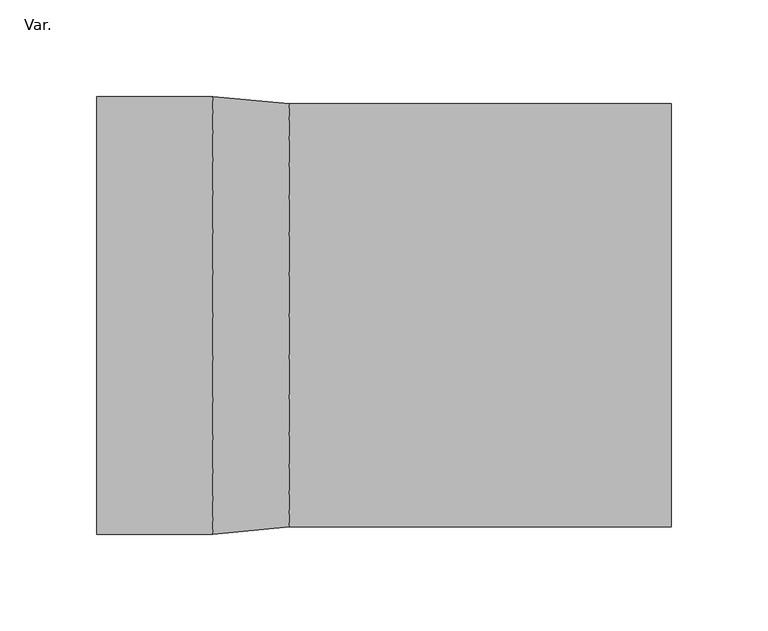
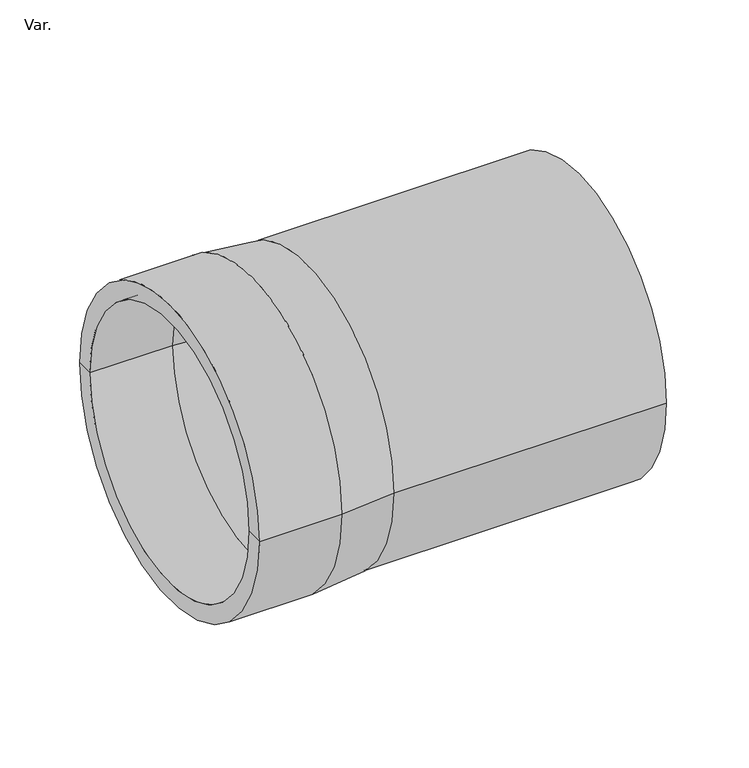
"""IFC4 building model written with IfcOpenShell, lengths in millimetres: pipe fitting geometry, PAVCO_PVC QS Adaptador Transición QS X PVC-U : Var.."""

from ifc_helpers import new_model, si_unit, frame, origin, place, context, project, spatial, polyline, circle_curve, source, transform, mapped, element, save
from ifc_brep_helpers import plane_surface, cylinder_surface, revolved_surface, advanced_brep


def var_8e9831f6(model_context):
    return source(origin(), model_context, "Body", "AdvancedBrep", [
        advanced_brep(
        [(-19.775, -113.25, 0.0), (-19.775, 113.25, 0.0), (19.775, 109.54, 0.0), (19.775, -109.54, 0.0), (-79.775, -113.25, 0.0), (-79.775, 113.25, 0.0), (-79.775, -100.325, 0.0), (-79.775, 100.325, 0.0), (-19.775, -100.325, 0.0), (-19.775, 100.325, 0.0), (19.775, -96.615, 0.0), (19.775, 96.615, 0.0), (217.475, -96.615, 0.0), (217.475, 96.615, 0.0), (217.475, -109.54, 0.0), (217.475, 109.54, 0.0)],
        [
            (0, 1, circle_curve(frame((-19.775, 0.0, 0.0), z_axis=(1.0, 0.0, 0.0), x_axis=(0.0, 1.0, 0.0)), 113.25)),
            (1, 2),
            (2, 3, circle_curve(frame((19.775, 0.0, 0.0), z_axis=(-1.0, 0.0, 0.0), x_axis=(0.0, 1.0, 0.0)), 109.54)),
            (3, 0),
            (1, 0, circle_curve(frame((-19.775, 0.0, 0.0), z_axis=(1.0, 0.0, 0.0), x_axis=(0.0, 1.0, 0.0)), 113.25)),
            (3, 2, circle_curve(frame((19.775, 0.0, 0.0), z_axis=(-1.0, 0.0, 0.0), x_axis=(0.0, 1.0, 0.0)), 109.54)),
            (4, 5, circle_curve(frame((-79.775, 0.0, 0.0), z_axis=(1.0, 0.0, 0.0), x_axis=(0.0, 1.0, 0.0)), 113.25)),
            (5, 1),
            (0, 4),
            (5, 4, circle_curve(frame((-79.775, 0.0, 0.0), z_axis=(1.0, 0.0, 0.0), x_axis=(0.0, 1.0, 0.0)), 113.25)),
            (6, 7, circle_curve(frame((-79.775, 0.0, 0.0), z_axis=(1.0, 0.0, 0.0), x_axis=(0.0, 1.0, 0.0)), 100.325)),
            (7, 5),
            (4, 6),
            (7, 6, circle_curve(frame((-79.775, 0.0, 0.0), z_axis=(1.0, 0.0, 0.0), x_axis=(0.0, 1.0, 0.0)), 100.325)),
            (8, 9, circle_curve(frame((-19.775, 0.0, 0.0), z_axis=(1.0, 0.0, 0.0), x_axis=(0.0, 1.0, 0.0)), 100.325)),
            (9, 7),
            (6, 8),
            (9, 8, circle_curve(frame((-19.775, 0.0, 0.0), z_axis=(1.0, 0.0, 0.0), x_axis=(0.0, 1.0, 0.0)), 100.325)),
            (10, 11, circle_curve(frame((19.775, 0.0, 0.0), z_axis=(1.0, 0.0, 0.0), x_axis=(0.0, 1.0, 0.0)), 96.615)),
            (11, 9),
            (8, 10),
            (11, 10, circle_curve(frame((19.775, 0.0, 0.0), z_axis=(1.0, 0.0, 0.0), x_axis=(0.0, 1.0, 0.0)), 96.615)),
            (12, 13, circle_curve(frame((217.475, 0.0, 0.0), z_axis=(1.0, 0.0, 0.0), x_axis=(0.0, 1.0, 0.0)), 96.615)),
            (13, 11),
            (10, 12),
            (13, 12, circle_curve(frame((217.475, 0.0, 0.0), z_axis=(1.0, 0.0, 0.0), x_axis=(0.0, 1.0, 0.0)), 96.615)),
            (14, 15, circle_curve(frame((217.475, 0.0, 0.0), z_axis=(1.0, 0.0, 0.0), x_axis=(0.0, 1.0, 0.0)), 109.54)),
            (15, 13),
            (12, 14),
            (15, 14, circle_curve(frame((217.475, 0.0, 0.0), z_axis=(1.0, 0.0, 0.0), x_axis=(0.0, 1.0, 0.0)), 109.54)),
            (2, 15),
            (14, 3),
        ],
        [
            revolved_surface(polyline([(19.775, 109.54, 0.0), (-19.775, 113.25, 0.0)]), (-260.1548062, 0.0, 0.0), (-1.0, 0.0, 0.0)),
            cylinder_surface(frame((-260.1548062, 0.0, 0.0), z_axis=(-1.0, 0.0, 0.0), x_axis=(0.0, 1.0, 0.0)), 113.25),
            plane_surface(frame((-79.775, 0.0, 0.0), z_axis=(-1.0, 0.0, 0.0), x_axis=(0.0, 1.0, 0.0))),
            revolved_surface(polyline([(-79.775, 100.325, 0.0), (-19.775000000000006, 100.325, 0.0)]), (-260.1548062, 0.0, 0.0), (-1.0, 0.0, 0.0)),
            revolved_surface(polyline([(-19.775, 100.325, 0.0), (19.775, 96.615, 0.0)]), (-260.1548062, 0.0, 0.0), (-1.0, 0.0, 0.0)),
            revolved_surface(polyline([(19.774999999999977, 96.615, 0.0), (217.47499999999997, 96.615, 0.0)]), (-260.1548062, 0.0, 0.0), (-1.0, 0.0, 0.0)),
            plane_surface(frame((217.475, 0.0, 0.0), z_axis=(1.0, 0.0, 0.0), x_axis=(0.0, 1.0, 0.0))),
            cylinder_surface(frame((-260.1548062, 0.0, 0.0), z_axis=(-1.0, 0.0, 0.0), x_axis=(0.0, 1.0, 0.0)), 109.54),
        ],
        [
            (0, [[1, 2, 3, 4]]),
            (0, [[5, -4, 6, -2]]),
            (1, [[7, 8, -1, 9]]),
            (1, [[10, -9, -5, -8]]),
            (2, [[11, 12, -7, 13]]),
            (2, [[14, -13, -10, -12]]),
            (3, [[15, 16, -11, 17]]),
            (3, [[18, -17, -14, -16]]),
            (4, [[19, 20, -15, 21]]),
            (4, [[22, -21, -18, -20]]),
            (5, [[23, 24, -19, 25]]),
            (5, [[26, -25, -22, -24]]),
            (6, [[27, 28, -23, 29]]),
            (6, [[30, -29, -26, -28]]),
            (7, [[-3, 31, -27, 32]]),
            (7, [[-6, -32, -30, -31]]),
        ],
    ),
    ])


if __name__ == "__main__":
    model = new_model("IFC4")
    model_context = context("Model", 3, world=origin())
    ifc_project = project(units=[si_unit("LENGTHUNIT", "METRE", prefix="MILLI")], contexts=[model_context])
    site = spatial("IfcSite", under=ifc_project)
    building = spatial("IfcBuilding", under=site)
    placement = place(None, origin())
    var_shape = var_8e9831f6(model_context)
    element("IfcPipeFitting", 1, ObjectType="PAVCO_PVC QS Adaptador Transición QS X PVC-U : Var.", at=placement, inside=building, context=model_context, shape_type="MappedRepresentation", body=[
        mapped(var_shape, transform((0.0, 0.0, 0.0), x_axis=(1.0, 0.0, 0.0), y_axis=(0.0, 1.0, 0.0), z_axis=(0.0, 0.0, 1.0))),
    ])
    save(model, "model.ifc")
